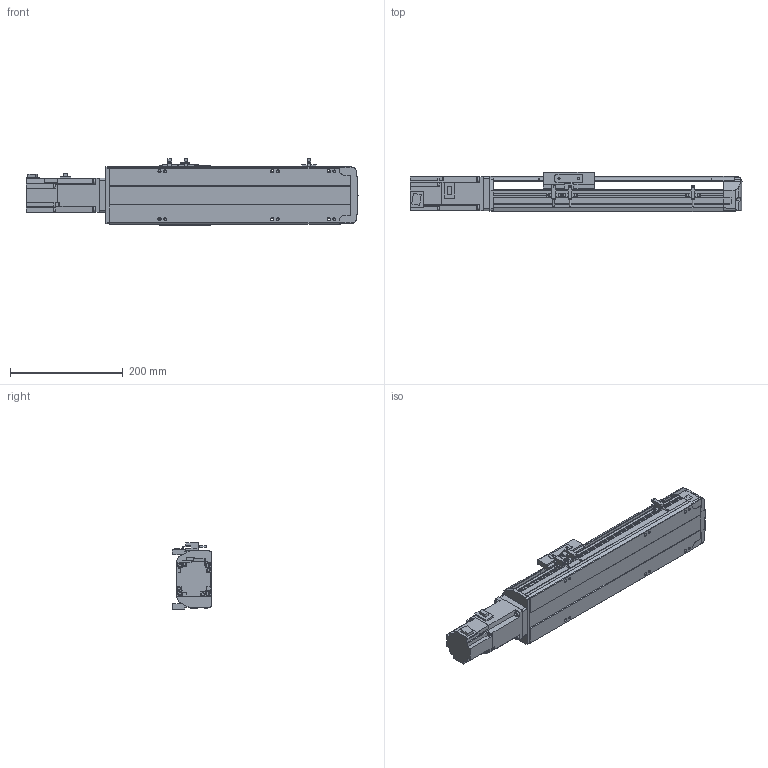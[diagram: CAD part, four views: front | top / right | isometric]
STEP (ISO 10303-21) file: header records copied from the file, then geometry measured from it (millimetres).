
FILE_DESCRIPTION(/* description */ ('STEP AP214'),/* implementation_level */ '2;1');
FILE_NAME(/* name */ 'PSS120-L10-S200-BC-T40-C1-N(0)',/* time_stamp */ '2022-06-02T02:32:51+02:00',/* author */ ('License CC BY-ND 4.0'),/* organization */ ('CADENAS'),/* preprocessor_version */ 'ST-DEVELOPER v18.102',/* originating_system */ 'PARTsolutions',/* authorisation */ ' ');
FILE_SCHEMA (('AUTOMOTIVE_DESIGN {1 0 10303 214 3 1 1}'));
Length unit declared in the file: millimetre
Products named in the file (8): PSS120-L10-S200-BC-T40-C1-N(0); PSS120-S200-BC-N_S; T40-p1; PSS120BC-N_h; PSS120-N_sensor; PSS120-BC-C1-N_sl; PSS120-N_Q; PSS120-S200-BC-C1-N_body
Assembly tree (9 placements, depth 2):
  PSS120-L10-S200-BC-T40-C1-N(0)
    PSS120-S200-BC-N_S
    T40-p1
    PSS120BC-N_h
    PSS120-N_sensor  x3
    PSS120-BC-C1-N_sl
    PSS120-N_Q
    PSS120-S200-BC-C1-N_body
Bounding box: 588.7 x 70 x 117.7 mm (x, y, z)
Volume: 1978313.4 mm3; surface area: 368096.2 mm2
Topology: 9 solids, 9 shells, 785 faces, 2104 edges, 1396 vertices
Faces by surface type: plane 541, cylinder 226, cone 18
Full cylindrical faces by diameter (mm): 2.8 x3, 4 x4, 4.134 x10, 4.2 x4, 4.4 x2, 4.5 x4, 4.6 x3, 4.917 x4, 5 x6, 5.5 x13, 7 x2, 8 x8, 8.5 x10, 14 x1, 28 x1, 32 x1, 50 x1
Entity records: 21046 total; most frequent: CARTESIAN_POINT 3780, DIRECTION 3525, ORIENTED_EDGE 3430, EDGE_CURVE 1715, LINE 1223, VECTOR 1223, VERTEX_POINT 1190, AXIS2_PLACEMENT_3D 1151
